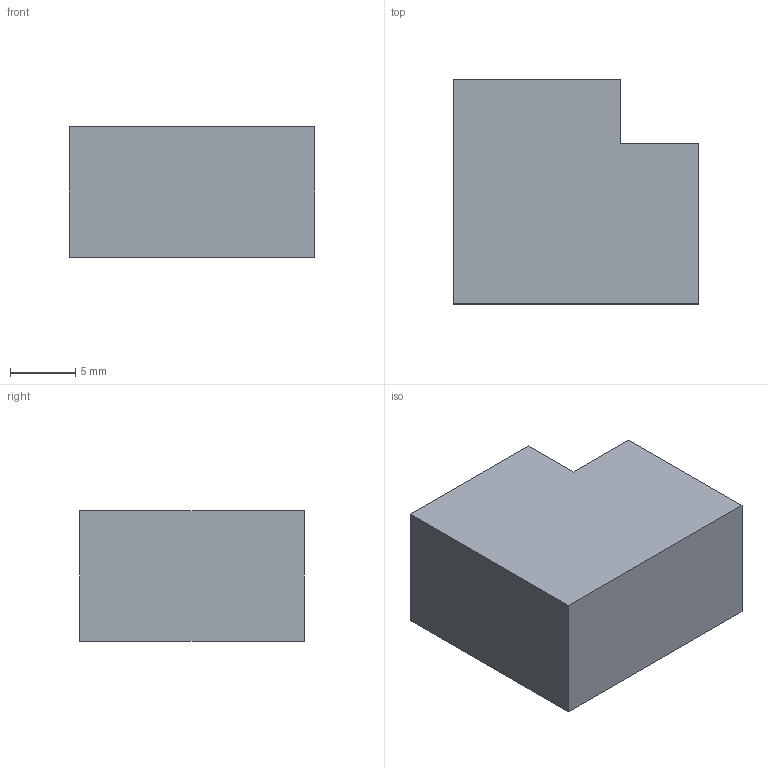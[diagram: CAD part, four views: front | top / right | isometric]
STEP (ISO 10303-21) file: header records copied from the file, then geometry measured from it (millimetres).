
FILE_DESCRIPTION (( 'STEP AP203' ), '1' );
FILE_NAME ('AB8-CapFJ.STEP', '2024-02-16T17:28:40', ( '' ), ( '' ), 'SwSTEP 2.0', 'SolidWorks 2020', '' );
FILE_SCHEMA (( 'CONFIG_CONTROL_DESIGN' ));
Length unit declared in the file: millimetre
Products named in the file (1): AB8-CapFJ
Bounding box: 18.85 x 17.2 x 10 mm (x, y, z)
Volume: 2946.6 mm3; surface area: 1310.3 mm2
Topology: 1 solids, 1 shells, 8 faces, 18 edges, 12 vertices
Faces by surface type: plane 8
Entity records: 299 total; most frequent: CARTESIAN_POINT 39, ORIENTED_EDGE 36, DIRECTION 36, EDGE_CURVE 18, VECTOR 18, LINE 18, VERTEX_POINT 12, AXIS2_PLACEMENT_3D 9
